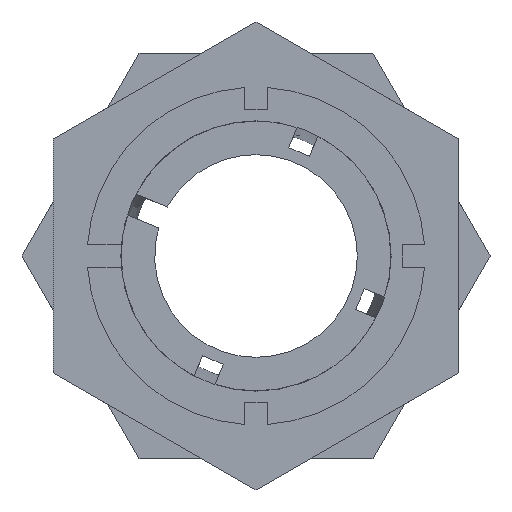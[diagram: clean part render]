
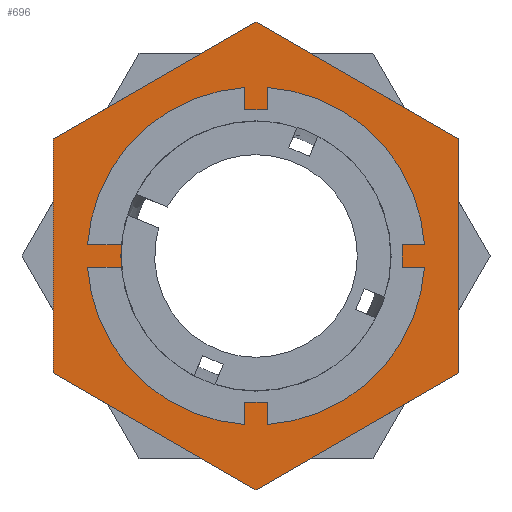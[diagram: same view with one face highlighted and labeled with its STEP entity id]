
A CAD part, left-side view. The second image highlights one B-rep face of the part: STEP entity #696.
In plain terms, the highlighted planar face has unit normal (-1, 0, 0).
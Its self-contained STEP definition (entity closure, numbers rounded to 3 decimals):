
#30 = AXIS2_PLACEMENT_3D ( 'NONE', #1431, #1423, #1422 ) ;
#35 = AXIS2_PLACEMENT_3D ( 'NONE', #1441, #1438, #1437 ) ;
#200 = EDGE_CURVE ( 'NONE', #1165, #1145, #1916, .T. ) ;
#209 = EDGE_CURVE ( 'NONE', #1161, #1152, #2024, .T. ) ;
#213 = EDGE_CURVE ( 'NONE', #1173, #1165, #1969, .T. ) ;
#214 = EDGE_CURVE ( 'NONE', #1124, #1174, #1913, .T. ) ;
#215 = EDGE_CURVE ( 'NONE', #1145, #1124, #1983, .T. ) ;
#216 = EDGE_CURVE ( 'NONE', #1152, #1161, #1903, .T. ) ;
#217 = EDGE_CURVE ( 'NONE', #1184, #1173, #1921, .T. ) ;
#218 = EDGE_CURVE ( 'NONE', #1174, #1184, #1891, .T. ) ;
#276 = AXIS2_PLACEMENT_3D ( 'NONE', #856, #862, #870 ) ;
#396 = CARTESIAN_POINT ( 'NONE',  ( 17.52, 0., 20.785 ) ) ;
#416 = CARTESIAN_POINT ( 'NONE',  ( 17.52, 0., 12.001 ) ) ;
#418 = CARTESIAN_POINT ( 'NONE',  ( 17.52, 18., -10.392 ) ) ;
#435 = CARTESIAN_POINT ( 'NONE',  ( 17.52, -18., 10.392 ) ) ;
#436 = CARTESIAN_POINT ( 'NONE',  ( 17.52, 18., 10.392 ) ) ;
#443 = CARTESIAN_POINT ( 'NONE',  ( 17.52, 0., -12.001 ) ) ;
#481 = CARTESIAN_POINT ( 'NONE',  ( 17.52, 0., -20.785 ) ) ;
#576 = CARTESIAN_POINT ( 'NONE',  ( 17.52, -18., -10.392 ) ) ;
#696 = ADVANCED_FACE ( 'NONE', ( #1047, #1009 ), #920, .F. ) ;
#792 = EDGE_LOOP ( 'NONE', ( #2238, #2235, #2234, #2233, #2232, #2231 ) ) ;
#804 = EDGE_LOOP ( 'NONE', ( #2240, #2239 ) ) ;
#856 = CARTESIAN_POINT ( 'NONE',  ( 17.52, 50., 0. ) ) ;
#862 = DIRECTION ( 'NONE',  ( 1., 0., 0. ) ) ;
#870 = DIRECTION ( 'NONE',  ( 0., 0., -1. ) ) ;
#920 = PLANE ( 'NONE',  #276 ) ;
#1009 = FACE_OUTER_BOUND ( 'NONE', #792, .T. ) ;
#1047 = FACE_BOUND ( 'NONE', #804, .T. ) ;
#1124 = VERTEX_POINT ( 'NONE', #576 ) ;
#1145 = VERTEX_POINT ( 'NONE', #481 ) ;
#1152 = VERTEX_POINT ( 'NONE', #416 ) ;
#1161 = VERTEX_POINT ( 'NONE', #443 ) ;
#1165 = VERTEX_POINT ( 'NONE', #418 ) ;
#1173 = VERTEX_POINT ( 'NONE', #436 ) ;
#1174 = VERTEX_POINT ( 'NONE', #435 ) ;
#1184 = VERTEX_POINT ( 'NONE', #396 ) ;
#1418 = DIRECTION ( 'NONE',  ( 0., 0.866, 0.5 ) ) ;
#1419 = CARTESIAN_POINT ( 'NONE',  ( 17.52, 0., 20.785 ) ) ;
#1420 = DIRECTION ( 'NONE',  ( 0., 0.866, -0.5 ) ) ;
#1421 = CARTESIAN_POINT ( 'NONE',  ( 17.52, 18., 10.392 ) ) ;
#1422 = DIRECTION ( 'NONE',  ( 0., 0., 1. ) ) ;
#1423 = DIRECTION ( 'NONE',  ( -1., 0., 0. ) ) ;
#1424 = DIRECTION ( 'NONE',  ( 0., -0.866, 0.5 ) ) ;
#1425 = CARTESIAN_POINT ( 'NONE',  ( 17.52, -18., -10.392 ) ) ;
#1426 = DIRECTION ( 'NONE',  ( 0., 0., 1. ) ) ;
#1427 = CARTESIAN_POINT ( 'NONE',  ( 17.52, -18., 10.392 ) ) ;
#1428 = DIRECTION ( 'NONE',  ( 0., 0., -1. ) ) ;
#1429 = CARTESIAN_POINT ( 'NONE',  ( 17.52, 18., -10.392 ) ) ;
#1431 = CARTESIAN_POINT ( 'NONE',  ( 17.52, 0., 0. ) ) ;
#1437 = DIRECTION ( 'NONE',  ( 0., 0., 1. ) ) ;
#1438 = DIRECTION ( 'NONE',  ( -1., 0., 0. ) ) ;
#1441 = CARTESIAN_POINT ( 'NONE',  ( 17.52, 0., 0. ) ) ;
#1457 = DIRECTION ( 'NONE',  ( 0., -0.866, -0.5 ) ) ;
#1458 = CARTESIAN_POINT ( 'NONE',  ( 17.52, 0., -20.785 ) ) ;
#1891 = LINE ( 'NONE', #1419, #1993 ) ;
#1903 = CIRCLE ( 'NONE', #30, 12.001 ) ;
#1913 = LINE ( 'NONE', #1427, #2020 ) ;
#1916 = LINE ( 'NONE', #1458, #1950 ) ;
#1921 = LINE ( 'NONE', #1421, #2019 ) ;
#1950 = VECTOR ( 'NONE', #1457, 1000. ) ;
#1969 = LINE ( 'NONE', #1429, #1970 ) ;
#1970 = VECTOR ( 'NONE', #1428, 1000. ) ;
#1983 = LINE ( 'NONE', #1425, #2012 ) ;
#1993 = VECTOR ( 'NONE', #1418, 1000. ) ;
#2012 = VECTOR ( 'NONE', #1424, 1000. ) ;
#2019 = VECTOR ( 'NONE', #1420, 1000. ) ;
#2020 = VECTOR ( 'NONE', #1426, 1000. ) ;
#2024 = CIRCLE ( 'NONE', #35, 12.001 ) ;
#2231 = ORIENTED_EDGE ( 'NONE', *, *, #218, .T. ) ;
#2232 = ORIENTED_EDGE ( 'NONE', *, *, #214, .T. ) ;
#2233 = ORIENTED_EDGE ( 'NONE', *, *, #215, .T. ) ;
#2234 = ORIENTED_EDGE ( 'NONE', *, *, #200, .T. ) ;
#2235 = ORIENTED_EDGE ( 'NONE', *, *, #213, .T. ) ;
#2238 = ORIENTED_EDGE ( 'NONE', *, *, #217, .T. ) ;
#2239 = ORIENTED_EDGE ( 'NONE', *, *, #209, .F. ) ;
#2240 = ORIENTED_EDGE ( 'NONE', *, *, #216, .F. ) ;
